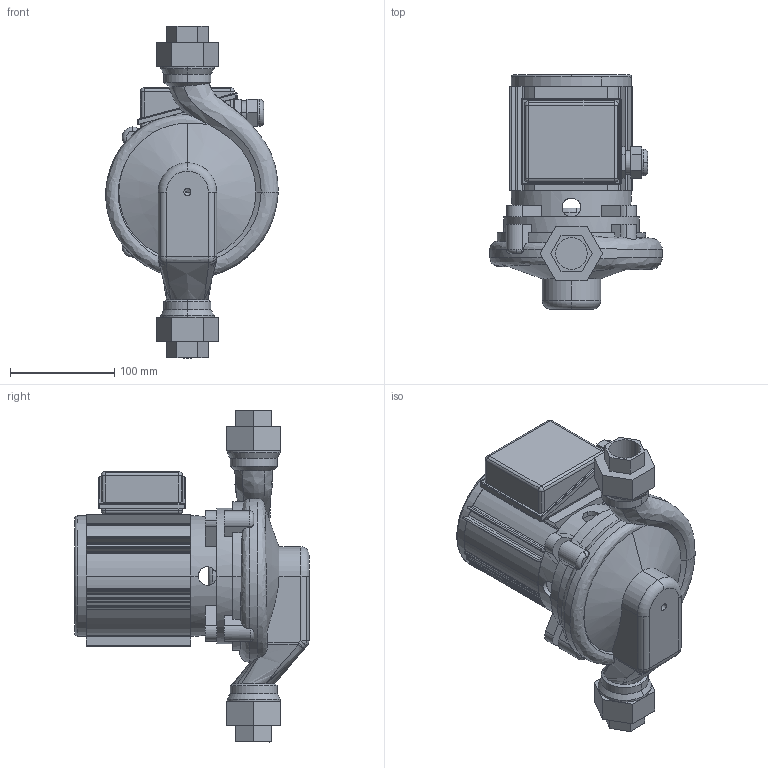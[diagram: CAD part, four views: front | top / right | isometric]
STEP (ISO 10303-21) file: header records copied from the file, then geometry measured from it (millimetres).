
FILE_DESCRIPTION(('STEP AP214'),'1');
FILE_NAME('export.stp','2018-05-28T13:33:08',(' '),(' '),'Spatial InterOp 3D',' ',' ');
FILE_SCHEMA(('AUTOMOTIVE_DESIGN { 1 0 10303 214 1 1 1 1 }'));
Length unit declared in the file: millimetre
Products named in the file (8): V_MOP732742; RU_OP_732_742; TKILPI_OP_7; KYTKOTELO_OP7_OKN8; W_AE264800; V_EKN12OP7; V_TLAEAP202526; V_PPAE26
Assembly tree (7 placements, depth 3):
  W_AE264800
    V_MOP732742
      RU_OP_732_742
      TKILPI_OP_7
      KYTKOTELO_OP7_OKN8
    V_EKN12OP7
    V_TLAEAP202526
    V_PPAE26
Bounding box: 165.21 x 224.25 x 318 mm (x, y, z)
Volume: 1868532.3 mm3; surface area: 354127.1 mm2
Topology: 6 solids, 7 shells, 489 faces, 1282 edges, 817 vertices
Faces by surface type: cylinder 252, plane 158, bspline 30, sphere 19, cone 16, torus 14
Entity records: 27858 total; most frequent: CARTESIAN_POINT 7308, DIRECTION 2653, ORIENTED_EDGE 2536, STYLED_ITEM 1345, PRESENTATION_STYLE_ASSIGNMENT 1345, COLOUR_RGB 1345, EDGE_CURVE 1268, AXIS2_PLACEMENT_3D 1048
